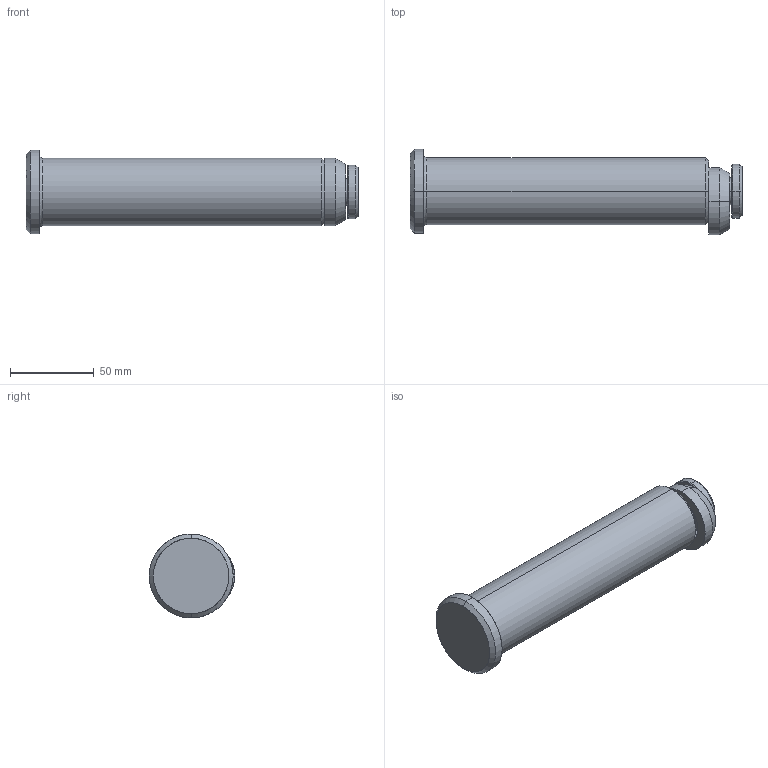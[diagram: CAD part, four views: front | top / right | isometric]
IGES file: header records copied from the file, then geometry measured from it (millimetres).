
Start section: START RECORD GO HERE.
Global section: file name: 395C-040-170.igs; native system: DASSAULT SYSTEMES CATIA V5 R20 - www.3ds.com; preprocessor: CATIA Version 5 Release 20 ; author: Utente; organization: NB04-ASUS; date: 20200409.145849; units: millimetre
Bounding box: 197.75 x 51 x 50 mm (x, y, z)
Surface area: 32718.5 mm2 (no closed solid volume)
Topology: 0 solids, 0 shells, 34 faces, 132 edges, 132 vertices
Faces by surface type: revolution 26, extrusion 8
